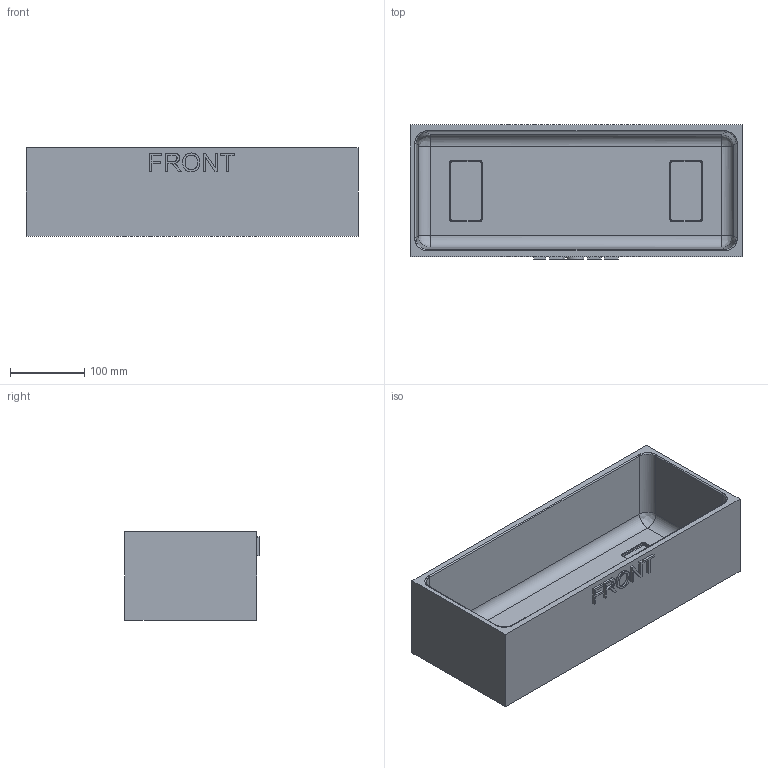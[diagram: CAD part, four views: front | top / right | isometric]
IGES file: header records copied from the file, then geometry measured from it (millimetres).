
Start section: Comment
Global section: file name: 2306-base, internal tub.igs; native system:  By UGS Corp.; preprocessor: XPlus GENERIC/IGES 3.0; author: Author; organization: Title; date: 20100421.095734; units: millimetre
Bounding box: 447.57 x 180.97 x 119.16 mm (x, y, z)
Surface area: 423477.1 mm2 (no closed solid volume)
Topology: 0 solids, 0 shells, 129 faces, 698 edges, 694 vertices
Faces by surface type: bspline 129
